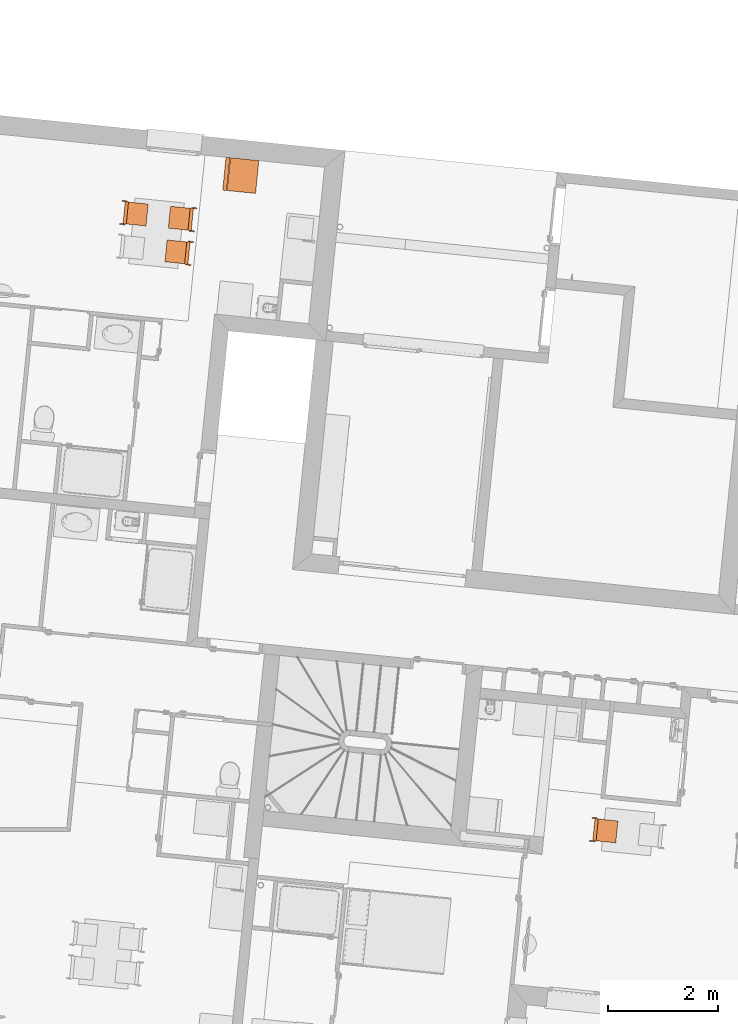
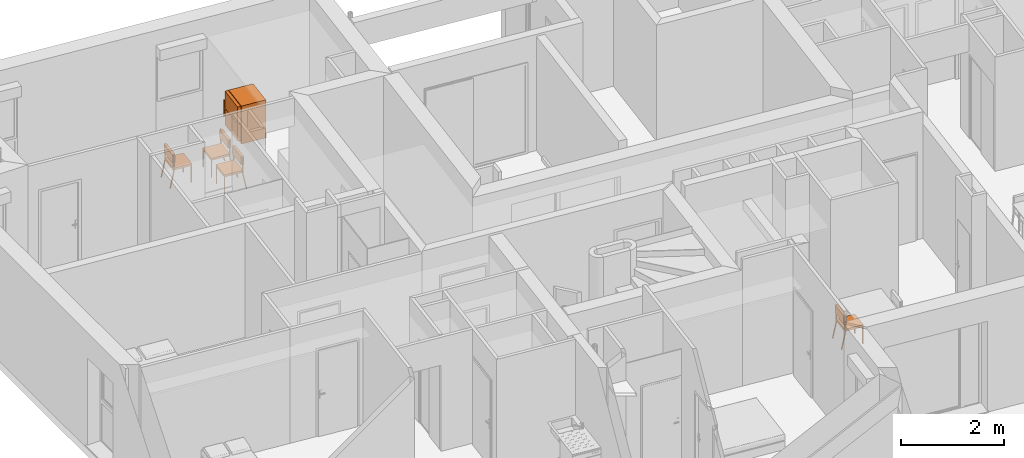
# One storey, part 163 of 171: 5 proxies.
"""IFC2X3 building model written with IfcOpenShell, lengths in millimetres."""

from ifc_helpers import new_model, entity, si_unit, converted_unit, derived_unit, money_unit, direction, frame, origin_with_axes, place, context, subcontext, project, spatial, open_shell, faceted_brep, surface_model, source, transform, mapped, type_object, element, save


model = new_model("IFC2X3")

# Units and contexts
model_context = context("Model", 3, precision=0.01, world=origin_with_axes(), true_north=direction((0.0, 1.0)))
body_context = subcontext(model_context, "Body", "Model", "MODEL_VIEW")
ifc_project = project(units=[si_unit("LENGTHUNIT", "METRE", prefix="MILLI"), si_unit("AREAUNIT", "SQUARE_METRE"), si_unit("VOLUMEUNIT", "CUBIC_METRE"), converted_unit("PLANEANGLEUNIT", "DEGREE", entity("IfcPlaneAngleMeasure", 0.0174532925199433), si_unit("PLANEANGLEUNIT", "RADIAN"), dimensions=[0, 0, 0, 0, 0, 0, 0]), money_unit("USD"), converted_unit("TIMEUNIT", "Year", entity("IfcTimeMeasure", 31557600.0), si_unit("TIMEUNIT", "SECOND"), dimensions=[0, 0, 1, 0, 0, 0, 0]), si_unit("MASSUNIT", "GRAM", prefix="KILO"), si_unit("THERMODYNAMICTEMPERATUREUNIT", "DEGREE_CELSIUS"), si_unit("LUMINOUSINTENSITYUNIT", "LUMEN"), si_unit("ENERGYUNIT", "JOULE", prefix="MEGA"), derived_unit("THERMALCONDUCTANCEUNIT", [(si_unit("POWERUNIT", "WATT"), 1), (si_unit("LENGTHUNIT", "METRE"), -1), (si_unit("THERMODYNAMICTEMPERATUREUNIT", "KELVIN"), -1)]), derived_unit("SPECIFICHEATCAPACITYUNIT", [(si_unit("ENERGYUNIT", "JOULE"), 1), (si_unit("MASSUNIT", "GRAM", prefix="KILO"), -1), (si_unit("THERMODYNAMICTEMPERATUREUNIT", "KELVIN"), -1)]), derived_unit("MASSDENSITYUNIT", [(si_unit("MASSUNIT", "GRAM", prefix="KILO"), 1), (si_unit("VOLUMEUNIT", "CUBIC_METRE"), -1)])], contexts=[model_context])

# Site, building, storey
site_placement = place(None, origin_with_axes())
site = spatial("IfcSite", under=ifc_project, at=site_placement, Name="Site", CompositionType="ELEMENT")
building_placement = place(site_placement, origin_with_axes())
building = spatial("IfcBuilding", under=site, at=building_placement, Name="Bâtiment", CompositionType="ELEMENT")
storey_placement = place(building_placement, frame((0.0, 0.0, 3000.0), z_axis=(0.0, 0.0, 1.0), x_axis=(1.0, 0.0, 0.0)))
storey = spatial("IfcBuildingStorey", under=building, at=storey_placement, Name="rdc", CompositionType="ELEMENT", Elevation=3000.0)

# Proxies
building_element_proxy_type = type_object("IfcBuildingElementProxyType", PredefinedType="NOTDEFINED")
shared_shape_1 = source(origin_with_axes(), body_context, "Body", "Brep", [
    faceted_brep([(39.99999978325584, 0.0, 0.0), (19.99999989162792, 0.0, 0.0), (19.99999989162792, 19.99999936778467, 0.0), (39.99999978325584, 19.99999936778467, 0.0), (39.99999978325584, 0.0, 400.0), (19.99999989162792, 0.0, 400.0), (19.99999989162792, 19.99999936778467, 400.0), (39.99999978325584, 19.99999936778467, 400.0)], [[[0, 1, 2, 3]], [[1, 0, 4, 5]], [[2, 1, 5, 6]], [[3, 2, 6, 7]], [[0, 3, 7, 4]], [[5, 4, 7, 6]]]),
    faceted_brep([(419.9999977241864, 0.0, 0.0), (399.9999978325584, 0.0, 0.0), (399.9999978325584, 19.99999936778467, 0.0), (419.9999977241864, 19.99999936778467, 0.0), (419.9999977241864, 0.0, 400.0), (399.9999978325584, 0.0, 400.0), (399.9999978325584, 19.99999936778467, 400.0), (419.9999977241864, 19.99999936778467, 400.0)], [[[0, 1, 2, 3]], [[1, 0, 4, 5]], [[2, 1, 5, 6]], [[3, 2, 6, 7]], [[0, 3, 7, 4]], [[5, 4, 7, 6]]]),
    faceted_brep([(399.9999978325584, 0.0, 400.0000000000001), (39.99999978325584, 0.0, 400.0000000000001), (39.99999978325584, 19.99999936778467, 400.0000000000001), (399.9999978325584, 19.99999936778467, 400.0000000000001), (399.9999978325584, 0.0, 420.0000000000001), (39.99999978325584, 0.0, 420.0000000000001), (39.99999978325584, 19.99999936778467, 420.0000000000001), (399.9999978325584, 19.99999936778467, 420.0000000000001)], [[[0, 1, 2, 3]], [[1, 0, 4, 5]], [[2, 1, 5, 6]], [[3, 2, 6, 7]], [[0, 3, 7, 4]], [[5, 4, 7, 6]]]),
    faceted_brep([(39.99999978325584, 19.99999936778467, 400.0000000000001), (19.99999989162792, 19.99999936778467, 400.0000000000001), (19.99999989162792, 379.9999879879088, 400.0000000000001), (39.99999978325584, 379.9999879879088, 400.0000000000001), (39.99999978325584, 19.99999936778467, 420.0000000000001), (19.99999989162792, 19.99999936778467, 420.0000000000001), (19.99999989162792, 379.9999879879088, 420.0000000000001), (39.99999978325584, 379.9999879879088, 420.0000000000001)], [[[0, 1, 2, 3]], [[1, 0, 4, 5]], [[2, 1, 5, 6]], [[3, 2, 6, 7]], [[0, 3, 7, 4]], [[5, 4, 7, 6]]]),
    faceted_brep([(419.9999977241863, 379.9999879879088, 400.0000000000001), (19.99999989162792, 379.9999879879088, 400.0000000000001), (19.99999989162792, 399.9999873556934, 400.0000000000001), (419.9999977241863, 399.9999873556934, 400.0000000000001), (419.9999977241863, 379.9999879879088, 420.0000000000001), (19.99999989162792, 379.9999879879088, 420.0000000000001), (19.99999989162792, 399.9999873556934, 420.0000000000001), (419.9999977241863, 399.9999873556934, 420.0000000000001)], [[[0, 1, 2, 3]], [[1, 0, 4, 5]], [[2, 1, 5, 6]], [[3, 2, 6, 7]], [[0, 3, 7, 4]], [[5, 4, 7, 6]]]),
    faceted_brep([(419.9999977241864, 19.99999936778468, 400.0000000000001), (399.9999978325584, 19.99999936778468, 400.0000000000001), (399.9999978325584, 379.9999879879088, 400.0000000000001), (419.9999977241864, 379.9999879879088, 400.0000000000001), (419.9999977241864, 19.99999936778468, 420.0000000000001), (399.9999978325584, 19.99999936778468, 420.0000000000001), (399.9999978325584, 379.9999879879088, 420.0000000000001), (419.9999977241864, 379.9999879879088, 420.0000000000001)], [[[0, 1, 2, 3]], [[1, 0, 4, 5]], [[2, 1, 5, 6]], [[3, 2, 6, 7]], [[0, 3, 7, 4]], [[5, 4, 7, 6]]]),
    faceted_brep([(419.9999977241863, 0.0, 400.0), (19.99999989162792, 0.0, 400.0), (19.99999989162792, 399.9999873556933, 400.0), (419.9999977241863, 399.9999873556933, 400.0), (419.9999977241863, 0.0, 450.0), (19.99999989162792, 0.0, 450.0), (19.99999989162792, 399.9999873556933, 450.0), (419.9999977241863, 399.9999873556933, 450.0)], [[[0, 1, 2, 3]], [[1, 0, 4, 5]], [[2, 1, 5, 6]], [[3, 2, 6, 7]], [[0, 3, 7, 4]], [[5, 4, 7, 6]]]),
    faceted_brep([(19.99999989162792, 379.9999879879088, 380.0), (0.0, 379.9999879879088, 380.0), (0.0, 399.9999873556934, 380.0), (19.99999989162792, 399.9999873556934, 380.0), (19.99999989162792, 379.9999879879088, 780.0), (0.0, 379.9999879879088, 780.0), (0.0, 399.9999873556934, 780.0), (19.99999989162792, 399.9999873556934, 780.0)], [[[0, 1, 2, 3]], [[1, 0, 4, 5]], [[2, 1, 5, 6]], [[3, 2, 6, 7]], [[0, 3, 7, 4]], [[5, 4, 7, 6]]]),
    faceted_brep([(439.9999976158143, 379.9999879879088, 380.0), (419.9999977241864, 379.9999879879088, 380.0), (419.9999977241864, 399.9999873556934, 380.0), (439.9999976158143, 399.9999873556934, 380.0), (439.9999976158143, 379.9999879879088, 780.0), (419.9999977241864, 379.9999879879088, 780.0), (419.9999977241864, 399.9999873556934, 780.0), (439.9999976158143, 399.9999873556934, 780.0)], [[[0, 1, 2, 3]], [[1, 0, 4, 5]], [[2, 1, 5, 6]], [[3, 2, 6, 7]], [[0, 3, 7, 4]], [[5, 4, 7, 6]]]),
    faceted_brep([(419.9999977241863, 359.999988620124, 580.0000000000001), (19.99999989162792, 359.999988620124, 580.0000000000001), (19.99999989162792, 419.9999867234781, 580.0000000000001), (419.9999977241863, 419.9999867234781, 580.0000000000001), (419.9999977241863, 359.999988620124, 780.0), (19.99999989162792, 359.999988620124, 780.0), (19.99999989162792, 419.9999867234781, 780.0), (419.9999977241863, 419.9999867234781, 780.0)], [[[0, 1, 2, 3]], [[1, 0, 4, 5]], [[2, 1, 5, 6]], [[3, 2, 6, 7]], [[0, 3, 7, 4]], [[5, 4, 7, 6]]]),
    faceted_brep([(19.99999989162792, 459.9999854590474, 0.0), (0.0, 459.9999854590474, 0.0), (0.0, 479.5709559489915, 4.120326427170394), (19.99999989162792, 479.5709559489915, 4.120326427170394), (19.99999989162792, 379.997669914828, 379.999760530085), (0.0, 379.997669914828, 379.999760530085), (0.0, 399.5686404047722, 384.1200869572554), (19.99999989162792, 399.5686404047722, 384.1200869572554)], [[[0, 1, 2, 3]], [[1, 0, 4, 5]], [[2, 1, 5, 6]], [[3, 2, 6, 7]], [[0, 3, 7, 4]], [[5, 4, 7, 6]]]),
    faceted_brep([(439.9999976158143, 459.9999854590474, 0.0), (419.9999977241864, 459.9999854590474, 0.0), (419.9999977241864, 479.5709559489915, 4.120326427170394), (439.9999976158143, 479.5709559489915, 4.120326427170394), (439.9999976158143, 379.997669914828, 379.999760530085), (419.9999977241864, 379.997669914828, 379.999760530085), (419.9999977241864, 399.5686404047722, 384.1200869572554), (439.9999976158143, 399.5686404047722, 384.1200869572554)], [[[0, 1, 2, 3]], [[1, 0, 4, 5]], [[2, 1, 5, 6]], [[3, 2, 6, 7]], [[0, 3, 7, 4]], [[5, 4, 7, 6]]]),
])
proxy_1_placement = place(storey_placement, frame((2222888.953909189, -606238.4051592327, 0.0), z_axis=(0.0, 0.0, 1.0), x_axis=(0.1000048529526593, 0.9949869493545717, 0.0)))
element("IfcBuildingElementProxy", 1, at=proxy_1_placement, inside=storey, type_object=building_element_proxy_type, Name="Obj.-027", context=body_context, shape_type="MappedRepresentation", body=[
    mapped(shared_shape_1, transform((0.0, 0.0, 0.0))),
])
shared_shape_2 = source(origin_with_axes(), body_context, "Body", "Brep", [
    faceted_brep([(-39.99999978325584, 0.0, 0.0), (-39.99999978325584, 19.99999936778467, 0.0), (-19.99999989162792, 19.99999936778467, 0.0), (-19.99999989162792, 0.0, 0.0), (-39.99999978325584, 0.0, 400.0), (-39.99999978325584, 19.99999936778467, 400.0), (-19.99999989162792, 19.99999936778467, 400.0), (-19.99999989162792, 0.0, 400.0)], [[[0, 1, 2, 3]], [[0, 4, 5, 1]], [[1, 5, 6, 2]], [[2, 6, 7, 3]], [[3, 7, 4, 0]], [[7, 6, 5, 4]]]),
    faceted_brep([(-419.9999977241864, 0.0, 0.0), (-419.9999977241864, 19.99999936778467, 0.0), (-399.9999978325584, 19.99999936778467, 0.0), (-399.9999978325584, 0.0, 0.0), (-419.9999977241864, 0.0, 400.0), (-419.9999977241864, 19.99999936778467, 400.0), (-399.9999978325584, 19.99999936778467, 400.0), (-399.9999978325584, 0.0, 400.0)], [[[0, 1, 2, 3]], [[0, 4, 5, 1]], [[1, 5, 6, 2]], [[2, 6, 7, 3]], [[3, 7, 4, 0]], [[7, 6, 5, 4]]]),
    faceted_brep([(-399.9999978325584, 0.0, 400.0000000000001), (-399.9999978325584, 19.99999936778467, 400.0000000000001), (-39.99999978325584, 19.99999936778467, 400.0000000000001), (-39.99999978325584, 0.0, 400.0000000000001), (-399.9999978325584, 0.0, 420.0000000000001), (-399.9999978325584, 19.99999936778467, 420.0000000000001), (-39.99999978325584, 19.99999936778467, 420.0000000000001), (-39.99999978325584, 0.0, 420.0000000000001)], [[[0, 1, 2, 3]], [[0, 4, 5, 1]], [[1, 5, 6, 2]], [[2, 6, 7, 3]], [[3, 7, 4, 0]], [[7, 6, 5, 4]]]),
    faceted_brep([(-39.99999978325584, 19.99999936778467, 400.0000000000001), (-39.99999978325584, 379.9999879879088, 400.0000000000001), (-19.99999989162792, 379.9999879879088, 400.0000000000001), (-19.99999989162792, 19.99999936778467, 400.0000000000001), (-39.99999978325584, 19.99999936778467, 420.0000000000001), (-39.99999978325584, 379.9999879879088, 420.0000000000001), (-19.99999989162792, 379.9999879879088, 420.0000000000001), (-19.99999989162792, 19.99999936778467, 420.0000000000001)], [[[0, 1, 2, 3]], [[0, 4, 5, 1]], [[1, 5, 6, 2]], [[2, 6, 7, 3]], [[3, 7, 4, 0]], [[7, 6, 5, 4]]]),
    faceted_brep([(-419.9999977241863, 379.9999879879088, 400.0000000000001), (-419.9999977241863, 399.9999873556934, 400.0000000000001), (-19.99999989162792, 399.9999873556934, 400.0000000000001), (-19.99999989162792, 379.9999879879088, 400.0000000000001), (-419.9999977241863, 379.9999879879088, 420.0000000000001), (-419.9999977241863, 399.9999873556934, 420.0000000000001), (-19.99999989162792, 399.9999873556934, 420.0000000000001), (-19.99999989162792, 379.9999879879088, 420.0000000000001)], [[[0, 1, 2, 3]], [[0, 4, 5, 1]], [[1, 5, 6, 2]], [[2, 6, 7, 3]], [[3, 7, 4, 0]], [[7, 6, 5, 4]]]),
    faceted_brep([(-419.9999977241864, 19.99999936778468, 400.0000000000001), (-419.9999977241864, 379.9999879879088, 400.0000000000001), (-399.9999978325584, 379.9999879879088, 400.0000000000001), (-399.9999978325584, 19.99999936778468, 400.0000000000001), (-419.9999977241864, 19.99999936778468, 420.0000000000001), (-419.9999977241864, 379.9999879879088, 420.0000000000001), (-399.9999978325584, 379.9999879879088, 420.0000000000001), (-399.9999978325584, 19.99999936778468, 420.0000000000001)], [[[0, 1, 2, 3]], [[0, 4, 5, 1]], [[1, 5, 6, 2]], [[2, 6, 7, 3]], [[3, 7, 4, 0]], [[7, 6, 5, 4]]]),
    faceted_brep([(-419.9999977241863, 0.0, 400.0), (-419.9999977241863, 399.9999873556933, 400.0), (-19.99999989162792, 399.9999873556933, 400.0), (-19.99999989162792, 0.0, 400.0), (-419.9999977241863, 0.0, 450.0), (-419.9999977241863, 399.9999873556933, 450.0), (-19.99999989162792, 399.9999873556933, 450.0), (-19.99999989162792, 0.0, 450.0)], [[[0, 1, 2, 3]], [[0, 4, 5, 1]], [[1, 5, 6, 2]], [[2, 6, 7, 3]], [[3, 7, 4, 0]], [[7, 6, 5, 4]]]),
    faceted_brep([(-19.99999989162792, 379.9999879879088, 380.0), (-19.99999989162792, 399.9999873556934, 380.0), (0.0, 399.9999873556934, 380.0), (0.0, 379.9999879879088, 380.0), (-19.99999989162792, 379.9999879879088, 780.0), (-19.99999989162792, 399.9999873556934, 780.0), (0.0, 399.9999873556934, 780.0), (0.0, 379.9999879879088, 780.0)], [[[0, 1, 2, 3]], [[0, 4, 5, 1]], [[1, 5, 6, 2]], [[2, 6, 7, 3]], [[3, 7, 4, 0]], [[7, 6, 5, 4]]]),
    faceted_brep([(-439.9999976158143, 379.9999879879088, 380.0), (-439.9999976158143, 399.9999873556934, 380.0), (-419.9999977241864, 399.9999873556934, 380.0), (-419.9999977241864, 379.9999879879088, 380.0), (-439.9999976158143, 379.9999879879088, 780.0), (-439.9999976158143, 399.9999873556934, 780.0), (-419.9999977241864, 399.9999873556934, 780.0), (-419.9999977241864, 379.9999879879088, 780.0)], [[[0, 1, 2, 3]], [[0, 4, 5, 1]], [[1, 5, 6, 2]], [[2, 6, 7, 3]], [[3, 7, 4, 0]], [[7, 6, 5, 4]]]),
    faceted_brep([(-419.9999977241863, 359.999988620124, 580.0000000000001), (-419.9999977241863, 419.9999867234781, 580.0000000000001), (-19.99999989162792, 419.9999867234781, 580.0000000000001), (-19.99999989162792, 359.999988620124, 580.0000000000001), (-419.9999977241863, 359.999988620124, 780.0), (-419.9999977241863, 419.9999867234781, 780.0), (-19.99999989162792, 419.9999867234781, 780.0), (-19.99999989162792, 359.999988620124, 780.0)], [[[0, 1, 2, 3]], [[0, 4, 5, 1]], [[1, 5, 6, 2]], [[2, 6, 7, 3]], [[3, 7, 4, 0]], [[7, 6, 5, 4]]]),
    faceted_brep([(-19.99999989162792, 459.9999854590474, 0.0), (-19.99999989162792, 479.5709559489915, 4.120326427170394), (0.0, 479.5709559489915, 4.120326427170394), (0.0, 459.9999854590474, 0.0), (-19.99999989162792, 379.997669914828, 379.999760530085), (-19.99999989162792, 399.5686404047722, 384.1200869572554), (0.0, 399.5686404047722, 384.1200869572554), (0.0, 379.997669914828, 379.999760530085)], [[[0, 1, 2, 3]], [[0, 4, 5, 1]], [[1, 5, 6, 2]], [[2, 6, 7, 3]], [[3, 7, 4, 0]], [[7, 6, 5, 4]]]),
    faceted_brep([(-439.9999976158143, 459.9999854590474, 0.0), (-439.9999976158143, 479.5709559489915, 4.120326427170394), (-419.9999977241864, 479.5709559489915, 4.120326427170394), (-419.9999977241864, 459.9999854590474, 0.0), (-439.9999976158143, 379.997669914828, 379.999760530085), (-439.9999976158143, 399.5686404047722, 384.1200869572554), (-419.9999977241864, 399.5686404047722, 384.1200869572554), (-419.9999977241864, 379.997669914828, 379.999760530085)], [[[0, 1, 2, 3]], [[0, 4, 5, 1]], [[1, 5, 6, 2]], [[2, 6, 7, 3]], [[3, 7, 4, 0]], [[7, 6, 5, 4]]]),
])
for number, where, z_axis, x_axis, name in (
    (2, (2223233.45015462, -606891.2546279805, 0.0), (0.0, 0.0, 1.0), (-0.1000048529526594, -0.9949869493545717, 0.0), "Obj.-027"),
    (3, (2223294.965680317, -606279.2128778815, 0.0), (0.0, 0.0, 1.0), (-0.1000048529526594, -0.9949869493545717, 0.0), "Obj.-027"),
    (4, (2231483.261986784, -617028.8585664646, 0.0), (0.0, 0.0, 1.0), (0.1005959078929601, 0.9949273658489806, 0.0), "Obj.-027"),
):
    element("IfcBuildingElementProxy", number, at=place(storey_placement, frame(where, z_axis=z_axis, x_axis=x_axis)), inside=storey, type_object=building_element_proxy_type, Name=name, context=body_context, shape_type="MappedRepresentation", body=[
        mapped(shared_shape_2, transform((0.0, 0.0, 0.0))),
    ])
shared_shape_3 = source(origin_with_axes(), body_context, "Body", "SurfaceModel", [
    faceted_brep([(0.0, 80.0, 100.0), (0.0, 80.0, 900.0), (-600.0, 80.0, 900.0), (-600.0, 80.0, 100.0), (0.0, 600.0, 100.0), (0.0, 600.0, 900.0), (-600.0, 600.0, 900.0), (-600.0, 600.0, 100.0)], [[[0, 1, 2, 3]], [[4, 5, 1, 0]], [[1, 5, 6, 2]], [[3, 2, 6, 7]], [[0, 3, 7, 4]], [[7, 6, 5, 4]]]),
    faceted_brep([(0.0, 80.0, 0.0), (0.0, 80.0, 100.0), (-600.0, 80.0, 100.0), (-600.0, 80.0, 0.0), (0.0, 600.0, 0.0), (0.0, 600.0, 100.0), (-600.0, 600.0, 100.0), (-600.0, 600.0, 0.0)], [[[0, 1, 2, 3]], [[4, 5, 1, 0]], [[1, 5, 6, 2]], [[3, 2, 6, 7]], [[0, 3, 7, 4]], [[7, 6, 5, 4]]]),
    faceted_brep([(0.0, 70.0, 100.0), (0.0, 0.0, 100.0), (-600.0, 0.0, 100.0), (-600.0, 70.0, 100.0), (0.0, 70.00000000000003, 494.0), (0.0, 0.0, 494.0), (-600.0, 0.0, 494.0), (-600.0, 70.00000000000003, 494.0)], [[[0, 1, 2, 3]], [[4, 5, 1, 0]], [[1, 5, 6, 2]], [[3, 2, 6, 7]], [[0, 3, 7, 4]], [[7, 6, 5, 4]]]),
    faceted_brep([(0.0, 70.0, 500.0), (0.0, 0.0, 500.0), (-600.0, 0.0, 500.0), (-600.0, 70.0, 500.0), (0.0, 70.00000000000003, 900.0), (0.0, 0.0, 900.0), (-600.0, 0.0, 900.0), (-600.0, 70.00000000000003, 900.0)], [[[0, 1, 2, 3]], [[4, 5, 1, 0]], [[1, 5, 6, 2]], [[3, 2, 6, 7]], [[0, 3, 7, 4]], [[7, 6, 5, 4]]]),
    surface_model("IfcShellBasedSurfaceModel", [(-600.0, -30.0, 300.0000000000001), (-600.0, 0.0, 300.0000000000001), (-600.0, 0.0, 494.0000000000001), (-600.0, -30.0, 494.0000000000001)], [open_shell([[[0, 1, 2, 3]]])]),
    surface_model("IfcShellBasedSurfaceModel", [(-600.0, -30.0, 300.0000000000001), (-570.0, -30.0, 300.0000000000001), (-570.0, -30.0, 494.0000000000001), (-600.0, -30.0, 494.0000000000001)], [open_shell([[[0, 1, 2, 3]]])]),
    surface_model("IfcShellBasedSurfaceModel", [(-600.0, -30.0, 500.0), (-600.0, 0.0, 500.0), (-600.0, 0.0, 700.0), (-600.0, -30.0, 700.0)], [open_shell([[[0, 1, 2, 3]]])]),
    surface_model("IfcShellBasedSurfaceModel", [(-600.0, -30.0, 500.0), (-570.0, -30.0, 500.0), (-570.0, -30.0, 700.0), (-600.0, -30.0, 700.0)], [open_shell([[[0, 1, 2, 3]]])]),
])
proxy_2_placement = place(storey_placement, frame((2224287.672434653, -605566.475621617, 0.0), z_axis=(0.0, 0.0, 1.0), x_axis=(-0.1005433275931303, -0.9949326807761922, 0.0)))
element("IfcBuildingElementProxy", 5, at=proxy_2_placement, inside=storey, type_object=building_element_proxy_type, Name="Obj.-019", context=body_context, shape_type="MappedRepresentation", body=[
    mapped(shared_shape_3, transform((0.0, 0.0, 0.0))),
])

save(model, "model.ifc")
